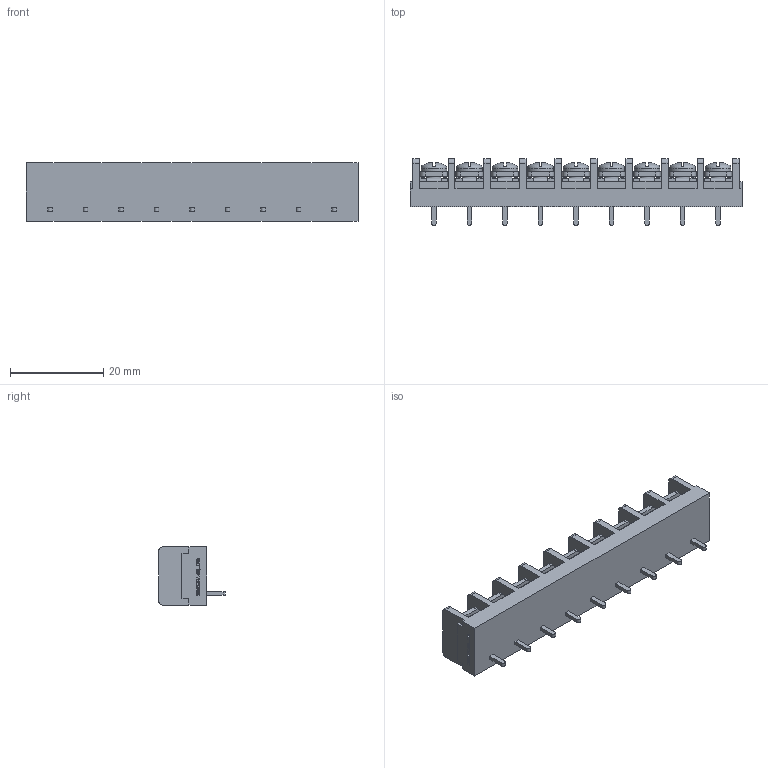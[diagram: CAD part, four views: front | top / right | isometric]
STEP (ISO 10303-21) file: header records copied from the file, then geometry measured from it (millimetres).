
FILE_DESCRIPTION(/* description */ ('Alibre Inc.'),/* implementation_level */ '2;1');
FILE_NAME(/* name */ 'export0',/* time_stamp */ '2015-10-26T17:26:32+09:00',/* author */ (''),/* organization */ (''),/* preprocessor_version */ 'ST-DEVELOPER v14',/* originating_system */ 'Alibre',/* authorisation */ '');
FILE_SCHEMA (('CONFIG_CONTROL_DESIGN'));
Length unit declared in the file: centimetre
Products named in the file (1): ID_1
Bounding box: 71.2 x 14.3 x 12.5 mm (x, y, z)
Volume: 6431.5 mm3; surface area: 5820.5 mm2
Topology: 1 solids, 1 shells, 1268 faces, 3489 edges, 2299 vertices
Faces by surface type: plane 982, cylinder 110, bspline 104, cone 36, torus 18, sphere 18
Full cylindrical faces by diameter (mm): 3 x9, 5.5 x9
Entity records: 38270 total; most frequent: CARTESIAN_POINT 8516, ORIENTED_EDGE 6834, DIRECTION 4697, EDGE_CURVE 3417, VECTOR 2440, LINE 2440, VERTEX_POINT 2263, AXIS2_PLACEMENT_3D 1575
